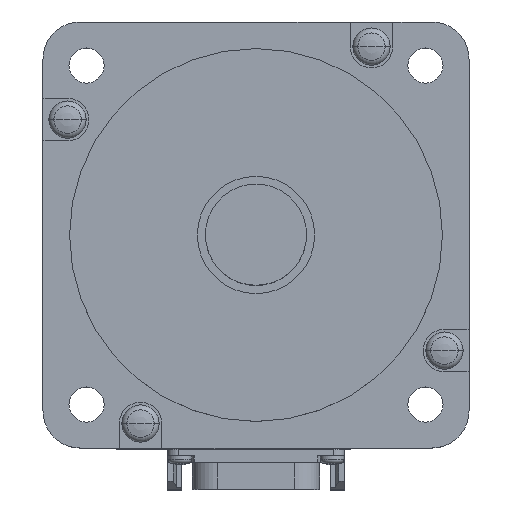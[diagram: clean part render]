
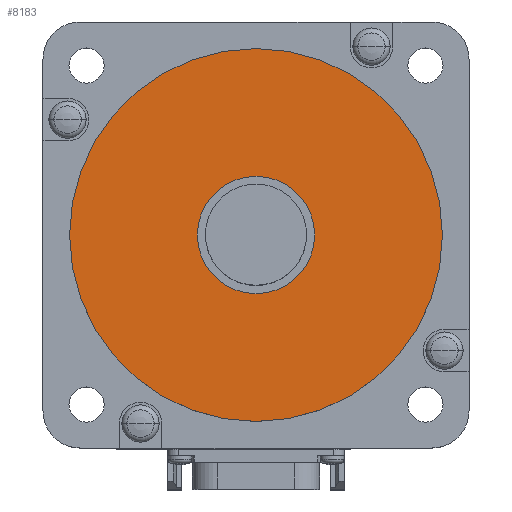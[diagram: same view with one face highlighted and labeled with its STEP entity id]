
A CAD part, top view. The second image highlights one B-rep face of the part: STEP entity #8183.
In plain terms, the highlighted planar face has unit normal (0, 0, 1).
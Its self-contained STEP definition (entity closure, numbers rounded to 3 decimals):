
#1867=CARTESIAN_POINT('',(0.,0.,3.));
#1868=DIRECTION('',(0.,0.,-1.));
#1869=DIRECTION('',(1.,0.,0.));
#1870=AXIS2_PLACEMENT_3D('',#1867,#1868,#1869);
#1872=CARTESIAN_POINT('',(0.,0.,3.));
#1873=DIRECTION('',(0.,0.,-1.));
#1874=DIRECTION('',(-1.,0.,0.));
#1875=AXIS2_PLACEMENT_3D('',#1872,#1873,#1874);
#1877=CARTESIAN_POINT('',(0.,0.,3.));
#1878=DIRECTION('',(0.,0.,1.));
#1879=DIRECTION('',(1.,0.,0.));
#1880=AXIS2_PLACEMENT_3D('',#1877,#1878,#1879);
#1882=CARTESIAN_POINT('',(0.,0.,3.));
#1883=DIRECTION('',(0.,0.,1.));
#1884=DIRECTION('',(-1.,0.,0.));
#1885=AXIS2_PLACEMENT_3D('',#1882,#1883,#1884);
#4636=CARTESIAN_POINT('',(35.,0.,3.));
#4637=VERTEX_POINT('',#4636);
#4638=CARTESIAN_POINT('',(-35.,0.,3.));
#4639=VERTEX_POINT('',#4638);
#5708=CARTESIAN_POINT('',(11.,0.,3.));
#5709=CARTESIAN_POINT('',(-11.,0.,3.));
#5710=VERTEX_POINT('',#5708);
#5711=VERTEX_POINT('',#5709);
#8167=CARTESIAN_POINT('',(0.,0.,3.));
#8168=DIRECTION('',(0.,0.,1.));
#8169=DIRECTION('',(1.,0.,0.));
#8170=AXIS2_PLACEMENT_3D('',#8167,#8168,#8169);
#8171=PLANE('',#8170);
#8172=ORIENTED_EDGE('',*,*,#8157,.T.);
#8174=ORIENTED_EDGE('',*,*,#8173,.T.);
#8175=EDGE_LOOP('',(#8172,#8174));
#8176=FACE_OUTER_BOUND('',#8175,.F.);
#8178=ORIENTED_EDGE('',*,*,#8177,.T.);
#8180=ORIENTED_EDGE('',*,*,#8179,.T.);
#8181=EDGE_LOOP('',(#8178,#8180));
#8182=FACE_BOUND('',#8181,.F.);
#8183=ADVANCED_FACE('',(#8176,#8182),#8171,.T.);
#1871=CIRCLE('',#1870,35.);
#1876=CIRCLE('',#1875,35.);
#1881=CIRCLE('',#1880,11.);
#1886=CIRCLE('',#1885,11.);
#8157=EDGE_CURVE('',#4637,#4639,#1871,.T.);
#8173=EDGE_CURVE('',#4639,#4637,#1876,.T.);
#8177=EDGE_CURVE('',#5710,#5711,#1881,.T.);
#8179=EDGE_CURVE('',#5711,#5710,#1886,.T.);
